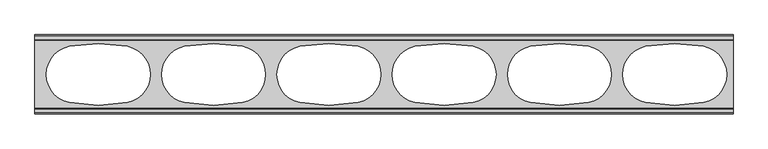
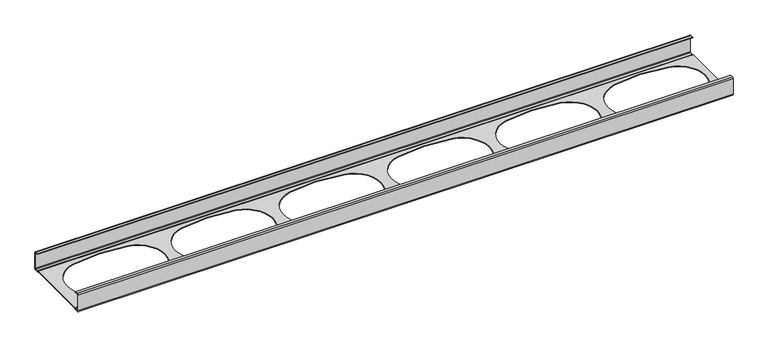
"""IFC4 building model written with IfcOpenShell, lengths in millimetres: proxy geometry, afs-LW-Track-150 : afs-LW-Track-150."""

from ifc_helpers import new_model, si_unit, frame, origin, place, context, project, spatial, polyline, circle_curve, source, transform, mapped, element, save
from ifc_brep_helpers import plane_surface, cylinder_surface, revolved_surface, advanced_brep


def generic_models_b1a0e952(model_context):
    return source(origin(), model_context, "Body", "AdvancedBrep", [
        advanced_brep(
        [(0.0, 69.0, 32.75), (0.0, 69.0, 2.25), (0.0, 66.75, 0.0), (0.0, 61.75, 0.0), (0.0, 60.0632084, 0.760962), (0.0, 59.0795419, 1.2), (0.0, -59.0795419, 1.2), (0.0, -60.0632084, 0.760962), (0.0, -61.75, 0.0), (0.0, -66.75, 0.0), (0.0, -69.0, 2.25), (0.0, -69.0, 32.75), (0.0, -66.75, 35.0), (0.0, -60.75, 35.0), (0.0, -60.75, 34.0), (0.0, -66.75, 34.0), (0.0, -68.0, 32.75), (0.0, -68.0, 2.25), (0.0, -66.75, 1.0), (0.0, -61.75, 1.0), (0.0, -60.819723, 1.4150841), (0.0, -59.0795419, 2.2), (0.0, 59.0795419, 2.2), (0.0, 60.819723, 1.4150841), (0.0, 61.75, 1.0), (0.0, 66.75, 1.0), (0.0, 68.0, 2.25), (0.0, 68.0, 32.75), (0.0, 66.75, 34.0), (0.0, 60.75, 34.0), (0.0, 60.75, 35.0), (0.0, 66.75, 35.0), (1211.3251938, 69.0, 2.25), (1211.3251938, 69.0, 32.75), (1211.3251938, 66.75, 35.0), (1211.3251938, 60.75, 35.0), (1211.3251938, 60.75, 34.0), (1211.3251938, 66.75, 34.0), (1211.3251938, 68.0, 32.75), (1211.3251938, 68.0, 2.25), (1211.3251938, 66.75, 1.0), (1211.3251938, 61.75, 1.0), (1211.3251938, 60.819723, 1.4150841), (1211.3251938, 59.0795419, 2.2), (1211.3251938, -59.0795419, 2.2), (1211.3251938, -60.819723, 1.4150841), (1211.3251938, -61.75, 1.0), (1211.3251938, -66.75, 1.0), (1211.3251938, -68.0, 2.25), (1211.3251938, -68.0, 32.75), (1211.3251938, -66.75, 34.0), (1211.3251938, -60.75, 34.0), (1211.3251938, -60.75, 35.0), (1211.3251938, -66.75, 35.0), (1211.3251938, -69.0, 32.75), (1211.3251938, -69.0, 2.25), (1211.3251938, -66.75, 0.0), (1211.3251938, -61.75, 0.0), (1211.3251938, -60.0632084, 0.760962), (1211.3251938, -59.0795419, 1.2), (1211.3251938, 59.0795419, 1.2), (1211.3251938, 60.0632084, 0.760962), (1211.3251938, 61.75, 0.0), (1211.3251938, 66.75, 0.0), (1060.0990099, -49.009901, 1.2), (1159.9009901, -49.009901, 1.2), (1159.9009901, 49.009901, 1.2), (1060.0990099, 49.009901, 1.2), (260.0990099, -49.009901, 1.2), (359.9009901, -49.009901, 1.2), (359.9009901, 49.009901, 1.2), (260.0990099, 49.009901, 1.2), (460.0990099, -49.009901, 1.2), (559.9009901, -49.009901, 1.2), (559.9009901, 49.009901, 1.2), (460.0990099, 49.009901, 1.2), (660.0990099, -49.009901, 1.2), (759.9009901, -49.009901, 1.2), (759.9009901, 49.009901, 1.2), (660.0990099, 49.009901, 1.2), (860.0990099, -49.009901, 1.2), (959.9009901, -49.009901, 1.2), (959.9009901, 49.009901, 1.2), (860.0990099, 49.009901, 1.2), (60.0990099, -49.009901, 1.2), (159.9009901, -49.009901, 1.2), (159.9009901, 49.009901, 1.2), (60.0990099, 49.009901, 1.2), (1159.9009901, -49.009901, 2.2), (1060.0990099, -49.009901, 2.2), (1060.0990099, 49.009901, 2.2), (1159.9009901, 49.009901, 2.2), (359.9009901, -49.009901, 2.2), (260.0990099, -49.009901, 2.2), (260.0990099, 49.009901, 2.2), (359.9009901, 49.009901, 2.2), (559.9009901, -49.009901, 2.2), (460.0990099, -49.009901, 2.2), (460.0990099, 49.009901, 2.2), (559.9009901, 49.009901, 2.2), (759.9009901, -49.009901, 2.2), (660.0990099, -49.009901, 2.2), (660.0990099, 49.009901, 2.2), (759.9009901, 49.009901, 2.2), (959.9009901, -49.009901, 2.2), (860.0990099, -49.009901, 2.2), (860.0990099, 49.009901, 2.2), (959.9009901, 49.009901, 2.2), (159.9009901, -49.009901, 2.2), (60.0990099, -49.009901, 2.2), (60.0990099, 49.009901, 2.2), (159.9009901, 49.009901, 2.2)],
        [
            (0, 1),
            (1, 2, circle_curve(frame((0.0, 66.75, 2.25), z_axis=(-1.0, 0.0, 0.0), x_axis=(0.0, 1.0, 0.0)), 2.25)),
            (2, 3),
            (3, 4, circle_curve(frame((0.0, 61.75, 2.25), z_axis=(-1.0, 0.0, 0.0), x_axis=(0.0, 1.0, 0.0)), 2.25)),
            (4, 5, circle_curve(frame((0.0, 59.0795419, -0.1214736), z_axis=(1.0, 0.0, 0.0), x_axis=(0.0, 1.0, 0.0)), 1.3214736)),
            (5, 6),
            (6, 7, circle_curve(frame((0.0, -59.0795419, -0.1214736), z_axis=(1.0, 0.0, 0.0), x_axis=(0.0, 1.0, 0.0)), 1.3214736)),
            (7, 8, circle_curve(frame((0.0, -61.75, 2.25), z_axis=(-1.0, 0.0, 0.0), x_axis=(0.0, 1.0, 0.0)), 2.25)),
            (8, 9),
            (9, 10, circle_curve(frame((0.0, -66.75, 2.25), z_axis=(-1.0, 0.0, 0.0), x_axis=(0.0, 1.0, 0.0)), 2.25)),
            (10, 11),
            (11, 12, circle_curve(frame((0.0, -66.75, 32.75), z_axis=(-1.0, 0.0, 0.0), x_axis=(0.0, 1.0, 0.0)), 2.25)),
            (12, 13),
            (13, 14),
            (14, 15),
            (15, 16, circle_curve(frame((0.0, -66.75, 32.75), z_axis=(1.0, 0.0, 0.0), x_axis=(0.0, 1.0, 0.0)), 1.25)),
            (16, 17),
            (17, 18, circle_curve(frame((0.0, -66.75, 2.25), z_axis=(1.0, 0.0, 0.0), x_axis=(0.0, 1.0, 0.0)), 1.25)),
            (18, 19),
            (19, 20, circle_curve(frame((0.0, -61.75, 2.25), z_axis=(1.0, 0.0, 0.0), x_axis=(0.0, 1.0, 0.0)), 1.25)),
            (20, 21, circle_curve(frame((0.0, -59.0795419, -0.1214736), z_axis=(-1.0, 0.0, 0.0), x_axis=(0.0, 1.0, 0.0)), 2.3214736)),
            (21, 22),
            (22, 23, circle_curve(frame((0.0, 59.0795419, -0.1214736), z_axis=(-1.0, 0.0, 0.0), x_axis=(0.0, 1.0, 0.0)), 2.3214736)),
            (23, 24, circle_curve(frame((0.0, 61.75, 2.25), z_axis=(1.0, 0.0, 0.0), x_axis=(0.0, 1.0, 0.0)), 1.25)),
            (24, 25),
            (25, 26, circle_curve(frame((0.0, 66.75, 2.25), z_axis=(1.0, 0.0, 0.0), x_axis=(0.0, 1.0, 0.0)), 1.25)),
            (26, 27),
            (27, 28, circle_curve(frame((0.0, 66.75, 32.75), z_axis=(1.0, 0.0, 0.0), x_axis=(0.0, 1.0, 0.0)), 1.25)),
            (28, 29),
            (29, 30),
            (30, 31),
            (31, 0, circle_curve(frame((0.0, 66.75, 32.75), z_axis=(-1.0, 0.0, 0.0), x_axis=(0.0, 1.0, 0.0)), 2.25)),
            (32, 33),
            (33, 34, circle_curve(frame((1211.3251938, 66.75, 32.75), z_axis=(1.0, 0.0, 0.0), x_axis=(0.0, 1.0, 0.0)), 2.25)),
            (34, 35),
            (35, 36),
            (36, 37),
            (37, 38, circle_curve(frame((1211.3251938, 66.75, 32.75), z_axis=(-1.0, 0.0, 0.0), x_axis=(0.0, 1.0, 0.0)), 1.25)),
            (38, 39),
            (39, 40, circle_curve(frame((1211.3251938, 66.75, 2.25), z_axis=(-1.0, 0.0, 0.0), x_axis=(0.0, 1.0, 0.0)), 1.25)),
            (40, 41),
            (41, 42, circle_curve(frame((1211.3251938, 61.75, 2.25), z_axis=(-1.0, 0.0, 0.0), x_axis=(0.0, 1.0, 0.0)), 1.25)),
            (42, 43, circle_curve(frame((1211.3251938, 59.0795419, -0.1214736), z_axis=(1.0, 0.0, 0.0), x_axis=(0.0, 1.0, 0.0)), 2.3214736)),
            (43, 44),
            (44, 45, circle_curve(frame((1211.3251938, -59.0795419, -0.1214736), z_axis=(1.0, 0.0, 0.0), x_axis=(0.0, 1.0, 0.0)), 2.3214736)),
            (45, 46, circle_curve(frame((1211.3251938, -61.75, 2.25), z_axis=(-1.0, 0.0, 0.0), x_axis=(0.0, 1.0, 0.0)), 1.25)),
            (46, 47),
            (47, 48, circle_curve(frame((1211.3251938, -66.75, 2.25), z_axis=(-1.0, 0.0, 0.0), x_axis=(0.0, 1.0, 0.0)), 1.25)),
            (48, 49),
            (49, 50, circle_curve(frame((1211.3251938, -66.75, 32.75), z_axis=(-1.0, 0.0, 0.0), x_axis=(0.0, 1.0, 0.0)), 1.25)),
            (50, 51),
            (51, 52),
            (52, 53),
            (53, 54, circle_curve(frame((1211.3251938, -66.75, 32.75), z_axis=(1.0, 0.0, 0.0), x_axis=(0.0, 1.0, 0.0)), 2.25)),
            (54, 55),
            (55, 56, circle_curve(frame((1211.3251938, -66.75, 2.25), z_axis=(1.0, 0.0, 0.0), x_axis=(0.0, 1.0, 0.0)), 2.25)),
            (56, 57),
            (57, 58, circle_curve(frame((1211.3251938, -61.75, 2.25), z_axis=(1.0, 0.0, 0.0), x_axis=(0.0, 1.0, 0.0)), 2.25)),
            (58, 59, circle_curve(frame((1211.3251938, -59.0795419, -0.1214736), z_axis=(-1.0, 0.0, 0.0), x_axis=(0.0, 1.0, 0.0)), 1.3214736)),
            (59, 60),
            (60, 61, circle_curve(frame((1211.3251938, 59.0795419, -0.1214736), z_axis=(-1.0, 0.0, 0.0), x_axis=(0.0, 1.0, 0.0)), 1.3214736)),
            (61, 62, circle_curve(frame((1211.3251938, 61.75, 2.25), z_axis=(1.0, 0.0, 0.0), x_axis=(0.0, 1.0, 0.0)), 2.25)),
            (62, 63),
            (63, 32, circle_curve(frame((1211.3251938, 66.75, 2.25), z_axis=(1.0, 0.0, 0.0), x_axis=(0.0, 1.0, 0.0)), 2.25)),
            (0, 33),
            (32, 1),
            (63, 2),
            (62, 3),
            (61, 4),
            (60, 5),
            (59, 6),
            (64, 65, circle_curve(frame((1110.0, 198.0, 1.2), z_axis=(0.0, 0.0, 1.0), x_axis=(0.0, -1.0, 0.0)), 252.0)),
            (65, 66, circle_curve(frame((1150.0, 0.0, 1.2), z_axis=(0.0, 0.0, 1.0), x_axis=(0.0, 1.0, 0.0)), 50.0)),
            (66, 67, circle_curve(frame((1110.0, -198.0, 1.2), z_axis=(0.0, 0.0, 1.0), x_axis=(0.0, 1.0, 0.0)), 252.0)),
            (67, 64, circle_curve(frame((1070.0, 0.0, 1.2), z_axis=(0.0, 0.0, 1.0), x_axis=(0.0, 1.0, 0.0)), 50.0)),
            (68, 69, circle_curve(frame((310.0, 198.0, 1.2), z_axis=(0.0, 0.0, 1.0), x_axis=(0.0, -1.0, 0.0)), 252.0)),
            (69, 70, circle_curve(frame((350.0, 0.0, 1.2), z_axis=(0.0, 0.0, 1.0), x_axis=(0.0, 1.0, 0.0)), 50.0)),
            (70, 71, circle_curve(frame((310.0, -198.0, 1.2), z_axis=(0.0, 0.0, 1.0), x_axis=(0.0, 1.0, 0.0)), 252.0)),
            (71, 68, circle_curve(frame((270.0, 0.0, 1.2), z_axis=(0.0, 0.0, 1.0), x_axis=(0.0, 1.0, 0.0)), 50.0)),
            (72, 73, circle_curve(frame((510.0, 198.0, 1.2), z_axis=(0.0, 0.0, 1.0), x_axis=(0.0, -1.0, 0.0)), 252.0)),
            (73, 74, circle_curve(frame((550.0, 0.0, 1.2), z_axis=(0.0, 0.0, 1.0), x_axis=(0.0, 1.0, 0.0)), 50.0)),
            (74, 75, circle_curve(frame((510.0, -198.0, 1.2), z_axis=(0.0, 0.0, 1.0), x_axis=(0.0, 1.0, 0.0)), 252.0)),
            (75, 72, circle_curve(frame((470.0, 0.0, 1.2), z_axis=(0.0, 0.0, 1.0), x_axis=(0.0, 1.0, 0.0)), 50.0)),
            (76, 77, circle_curve(frame((710.0, 198.0, 1.2), z_axis=(0.0, 0.0, 1.0), x_axis=(0.0, -1.0, 0.0)), 252.0)),
            (77, 78, circle_curve(frame((750.0, 0.0, 1.2), z_axis=(0.0, 0.0, 1.0), x_axis=(0.0, 1.0, 0.0)), 50.0)),
            (78, 79, circle_curve(frame((710.0, -198.0, 1.2), z_axis=(0.0, 0.0, 1.0), x_axis=(0.0, 1.0, 0.0)), 252.0)),
            (79, 76, circle_curve(frame((670.0, 0.0, 1.2), z_axis=(0.0, 0.0, 1.0), x_axis=(0.0, 1.0, 0.0)), 50.0)),
            (80, 81, circle_curve(frame((910.0, 198.0, 1.2), z_axis=(0.0, 0.0, 1.0), x_axis=(0.0, -1.0, 0.0)), 252.0)),
            (81, 82, circle_curve(frame((950.0, 0.0, 1.2), z_axis=(0.0, 0.0, 1.0), x_axis=(0.0, 1.0, 0.0)), 50.0)),
            (82, 83, circle_curve(frame((910.0, -198.0, 1.2), z_axis=(0.0, 0.0, 1.0), x_axis=(0.0, 1.0, 0.0)), 252.0)),
            (83, 80, circle_curve(frame((870.0, 0.0, 1.2), z_axis=(0.0, 0.0, 1.0), x_axis=(0.0, 1.0, 0.0)), 50.0)),
            (84, 85, circle_curve(frame((110.0, 198.0, 1.2), z_axis=(0.0, 0.0, 1.0), x_axis=(0.0, -1.0, 0.0)), 252.0)),
            (85, 86, circle_curve(frame((150.0, 0.0, 1.2), z_axis=(0.0, 0.0, 1.0), x_axis=(0.0, 1.0, 0.0)), 50.0)),
            (86, 87, circle_curve(frame((110.0, -198.0, 1.2), z_axis=(0.0, 0.0, 1.0), x_axis=(0.0, 1.0, 0.0)), 252.0)),
            (87, 84, circle_curve(frame((70.0, 0.0, 1.2), z_axis=(0.0, 0.0, 1.0), x_axis=(0.0, 1.0, 0.0)), 50.0)),
            (58, 7),
            (57, 8),
            (56, 9),
            (55, 10),
            (54, 11),
            (53, 12),
            (52, 13),
            (51, 14),
            (50, 15),
            (49, 16),
            (48, 17),
            (47, 18),
            (46, 19),
            (45, 20),
            (44, 21),
            (43, 22),
            (88, 89, circle_curve(frame((1110.0, 198.0, 2.2), z_axis=(0.0, 0.0, -1.0), x_axis=(0.0, -1.0, 0.0)), 252.0)),
            (89, 90, circle_curve(frame((1070.0, 0.0, 2.2), z_axis=(0.0, 0.0, -1.0), x_axis=(0.0, 1.0, 0.0)), 50.0)),
            (90, 91, circle_curve(frame((1110.0, -198.0, 2.2), z_axis=(0.0, 0.0, -1.0), x_axis=(0.0, 1.0, 0.0)), 252.0)),
            (91, 88, circle_curve(frame((1150.0, 0.0, 2.2), z_axis=(0.0, 0.0, -1.0), x_axis=(0.0, 1.0, 0.0)), 50.0)),
            (92, 93, circle_curve(frame((310.0, 198.0, 2.2), z_axis=(0.0, 0.0, -1.0), x_axis=(0.0, -1.0, 0.0)), 252.0)),
            (93, 94, circle_curve(frame((270.0, 0.0, 2.2), z_axis=(0.0, 0.0, -1.0), x_axis=(0.0, 1.0, 0.0)), 50.0)),
            (94, 95, circle_curve(frame((310.0, -198.0, 2.2), z_axis=(0.0, 0.0, -1.0), x_axis=(0.0, 1.0, 0.0)), 252.0)),
            (95, 92, circle_curve(frame((350.0, 0.0, 2.2), z_axis=(0.0, 0.0, -1.0), x_axis=(0.0, 1.0, 0.0)), 50.0)),
            (96, 97, circle_curve(frame((510.0, 198.0, 2.2), z_axis=(0.0, 0.0, -1.0), x_axis=(0.0, -1.0, 0.0)), 252.0)),
            (97, 98, circle_curve(frame((470.0, 0.0, 2.2), z_axis=(0.0, 0.0, -1.0), x_axis=(0.0, 1.0, 0.0)), 50.0)),
            (98, 99, circle_curve(frame((510.0, -198.0, 2.2), z_axis=(0.0, 0.0, -1.0), x_axis=(0.0, 1.0, 0.0)), 252.0)),
            (99, 96, circle_curve(frame((550.0, 0.0, 2.2), z_axis=(0.0, 0.0, -1.0), x_axis=(0.0, 1.0, 0.0)), 50.0)),
            (100, 101, circle_curve(frame((710.0, 198.0, 2.2), z_axis=(0.0, 0.0, -1.0), x_axis=(0.0, -1.0, 0.0)), 252.0)),
            (101, 102, circle_curve(frame((670.0, 0.0, 2.2), z_axis=(0.0, 0.0, -1.0), x_axis=(0.0, 1.0, 0.0)), 50.0)),
            (102, 103, circle_curve(frame((710.0, -198.0, 2.2), z_axis=(0.0, 0.0, -1.0), x_axis=(0.0, 1.0, 0.0)), 252.0)),
            (103, 100, circle_curve(frame((750.0, 0.0, 2.2), z_axis=(0.0, 0.0, -1.0), x_axis=(0.0, 1.0, 0.0)), 50.0)),
            (104, 105, circle_curve(frame((910.0, 198.0, 2.2), z_axis=(0.0, 0.0, -1.0), x_axis=(0.0, -1.0, 0.0)), 252.0)),
            (105, 106, circle_curve(frame((870.0, 0.0, 2.2), z_axis=(0.0, 0.0, -1.0), x_axis=(0.0, 1.0, 0.0)), 50.0)),
            (106, 107, circle_curve(frame((910.0, -198.0, 2.2), z_axis=(0.0, 0.0, -1.0), x_axis=(0.0, 1.0, 0.0)), 252.0)),
            (107, 104, circle_curve(frame((950.0, 0.0, 2.2), z_axis=(0.0, 0.0, -1.0), x_axis=(0.0, 1.0, 0.0)), 50.0)),
            (108, 109, circle_curve(frame((110.0, 198.0, 2.2), z_axis=(0.0, 0.0, -1.0), x_axis=(0.0, -1.0, 0.0)), 252.0)),
            (109, 110, circle_curve(frame((70.0, 0.0, 2.2), z_axis=(0.0, 0.0, -1.0), x_axis=(0.0, 1.0, 0.0)), 50.0)),
            (110, 111, circle_curve(frame((110.0, -198.0, 2.2), z_axis=(0.0, 0.0, -1.0), x_axis=(0.0, 1.0, 0.0)), 252.0)),
            (111, 108, circle_curve(frame((150.0, 0.0, 2.2), z_axis=(0.0, 0.0, -1.0), x_axis=(0.0, 1.0, 0.0)), 50.0)),
            (42, 23),
            (41, 24),
            (40, 25),
            (39, 26),
            (38, 27),
            (37, 28),
            (36, 29),
            (35, 30),
            (34, 31),
            (92, 69),
            (68, 93),
            (95, 70),
            (94, 71),
            (72, 97),
            (96, 73),
            (99, 74),
            (98, 75),
            (76, 101),
            (100, 77),
            (103, 78),
            (102, 79),
            (80, 105),
            (104, 81),
            (107, 82),
            (106, 83),
            (64, 89),
            (88, 65),
            (91, 66),
            (90, 67),
            (84, 109),
            (108, 85),
            (111, 86),
            (110, 87),
        ],
        [
            plane_surface(frame((0.0, 0.0, 0.0), z_axis=(-1.0, 0.0, 0.0), x_axis=(0.0, 0.0, 1.0))),
            plane_surface(frame((1211.3251938, 0.0, 0.0), z_axis=(1.0, 0.0, 0.0), x_axis=(0.0, 0.0, 1.0))),
            plane_surface(frame((0.0, 69.0, 32.75), z_axis=(0.0, 1.0, 0.0), x_axis=(1.0, 0.0, 0.0))),
            cylinder_surface(frame((0.0, 66.75, 2.25), z_axis=(-1.0, 0.0, 0.0), x_axis=(0.0, 1.0, 0.0)), 2.25),
            plane_surface(frame((0.0, 66.75, 0.0), z_axis=(0.0, 0.0, -1.0), x_axis=(1.0, 0.0, 0.0))),
            cylinder_surface(frame((0.0, 61.75, 2.25), z_axis=(-1.0, 0.0, 0.0), x_axis=(0.0, 1.0, 0.0)), 2.25),
            revolved_surface(polyline([(1211.3251938, 60.4010155, -0.1214736), (0.0, 60.4010155, -0.1214736)]), (0.0, 59.0795419, -0.1214736), (1.0, 0.0, 0.0)),
            plane_surface(frame((0.0, 59.0795419, 1.2), z_axis=(0.0, 0.0, -1.0), x_axis=(1.0, 0.0, 0.0))),
            revolved_surface(polyline([(1211.3251938, -57.758068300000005, -0.1214736), (0.0, -57.758068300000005, -0.1214736)]), (0.0, -59.0795419, -0.1214736), (1.0, 0.0, 0.0)),
            cylinder_surface(frame((0.0, -61.75, 2.25), z_axis=(-1.0, 0.0, 0.0), x_axis=(0.0, 1.0, 0.0)), 2.25),
            plane_surface(frame((0.0, -61.75, 0.0), z_axis=(0.0, 0.0, -1.0), x_axis=(1.0, 0.0, 0.0))),
            cylinder_surface(frame((0.0, -66.75, 2.25), z_axis=(-1.0, 0.0, 0.0), x_axis=(0.0, 1.0, 0.0)), 2.25),
            plane_surface(frame((0.0, -69.0, 2.25), z_axis=(0.0, -1.0, 0.0), x_axis=(1.0, 0.0, 0.0))),
            cylinder_surface(frame((0.0, -66.75, 32.75), z_axis=(-1.0, 0.0, 0.0), x_axis=(0.0, 1.0, 0.0)), 2.25),
            plane_surface(frame((0.0, -66.75, 35.0), z_axis=(0.0, 0.0, 1.0), x_axis=(1.0, 0.0, 0.0))),
            plane_surface(frame((0.0, -60.75, 35.0), z_axis=(0.0, 1.0, 0.0), x_axis=(1.0, 0.0, 0.0))),
            plane_surface(frame((0.0, -60.75, 34.0), z_axis=(0.0, 0.0, -1.0), x_axis=(1.0, 0.0, 0.0))),
            revolved_surface(polyline([(1211.3251938, -65.5, 32.75), (0.0, -65.5, 32.75)]), (0.0, -66.75, 32.75), (1.0, 0.0, 0.0)),
            plane_surface(frame((0.0, -68.0, 32.75), z_axis=(0.0, 1.0, 0.0), x_axis=(1.0, 0.0, 0.0))),
            revolved_surface(polyline([(1211.3251938, -65.5, 2.25), (0.0, -65.5, 2.25)]), (0.0, -66.75, 2.25), (1.0, 0.0, 0.0)),
            plane_surface(frame((0.0, -66.75, 1.0), z_axis=(0.0, 0.0, 1.0), x_axis=(1.0, 0.0, 0.0))),
            revolved_surface(polyline([(1211.3251938, -60.5, 2.25), (0.0, -60.5, 2.25)]), (0.0, -61.75, 2.25), (1.0, 0.0, 0.0)),
            cylinder_surface(frame((0.0, -59.0795419, -0.1214736), z_axis=(-1.0, 0.0, 0.0), x_axis=(0.0, 1.0, 0.0)), 2.3214736),
            plane_surface(frame((0.0, -59.0795419, 2.2), z_axis=(0.0, 0.0, 1.0), x_axis=(1.0, 0.0, 0.0))),
            cylinder_surface(frame((0.0, 59.0795419, -0.1214736), z_axis=(-1.0, 0.0, 0.0), x_axis=(0.0, 1.0, 0.0)), 2.3214736),
            revolved_surface(polyline([(1211.3251938, 63.0, 2.25), (0.0, 63.0, 2.25)]), (0.0, 61.75, 2.25), (1.0, 0.0, 0.0)),
            plane_surface(frame((0.0, 61.75, 1.0), z_axis=(0.0, 0.0, 1.0), x_axis=(1.0, 0.0, 0.0))),
            revolved_surface(polyline([(1211.3251938, 68.0, 2.25), (0.0, 68.0, 2.25)]), (0.0, 66.75, 2.25), (1.0, 0.0, 0.0)),
            plane_surface(frame((0.0, 68.0, 2.25), z_axis=(0.0, -1.0, 0.0), x_axis=(1.0, 0.0, 0.0))),
            revolved_surface(polyline([(1211.3251938, 68.0, 32.75), (0.0, 68.0, 32.75)]), (0.0, 66.75, 32.75), (1.0, 0.0, 0.0)),
            plane_surface(frame((0.0, 66.75, 34.0), z_axis=(0.0, 0.0, -1.0), x_axis=(1.0, 0.0, 0.0))),
            plane_surface(frame((0.0, 60.75, 34.0), z_axis=(0.0, -1.0, 0.0), x_axis=(1.0, 0.0, 0.0))),
            plane_surface(frame((0.0, 60.75, 35.0), z_axis=(0.0, 0.0, 1.0), x_axis=(1.0, 0.0, 0.0))),
            cylinder_surface(frame((0.0, 66.75, 32.75), z_axis=(-1.0, 0.0, 0.0), x_axis=(0.0, 1.0, 0.0)), 2.25),
            revolved_surface(polyline([(310.0, -54.0, 2.200000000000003), (310.0, -54.0, 1.2000000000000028)]), (310.0, 198.0, -98.8), (0.0, 0.0, 1.0)),
            revolved_surface(polyline([(350.0, 50.0, 2.200000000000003), (350.0, 50.0, 1.2000000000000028)]), (350.0, 0.0, -98.8), (0.0, 0.0, 1.0)),
            revolved_surface(polyline([(310.0, 54.0, 2.200000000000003), (310.0, 54.0, 1.2000000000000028)]), (310.0, -198.0, -98.8), (0.0, 0.0, 1.0)),
            revolved_surface(polyline([(270.0, 50.0, 2.200000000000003), (270.0, 50.0, 1.2000000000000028)]), (270.0, 0.0, -98.8), (0.0, 0.0, 1.0)),
            revolved_surface(polyline([(510.0, -54.0, 2.200000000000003), (510.0, -54.0, 1.2000000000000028)]), (510.0, 198.0, -98.8), (0.0, 0.0, 1.0)),
            revolved_surface(polyline([(550.0, 50.0, 2.200000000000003), (550.0, 50.0, 1.2000000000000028)]), (550.0, 0.0, -98.8), (0.0, 0.0, 1.0)),
            revolved_surface(polyline([(510.0, 54.0, 2.200000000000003), (510.0, 54.0, 1.2000000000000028)]), (510.0, -198.0, -98.8), (0.0, 0.0, 1.0)),
            revolved_surface(polyline([(470.0, 50.0, 2.200000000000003), (470.0, 50.0, 1.2000000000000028)]), (470.0, 0.0, -98.8), (0.0, 0.0, 1.0)),
            revolved_surface(polyline([(710.0, -54.0, 2.200000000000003), (710.0, -54.0, 1.2000000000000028)]), (710.0, 198.0, -98.8), (0.0, 0.0, 1.0)),
            revolved_surface(polyline([(750.0, 50.0, 2.200000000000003), (750.0, 50.0, 1.2000000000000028)]), (750.0, 0.0, -98.8), (0.0, 0.0, 1.0)),
            revolved_surface(polyline([(710.0, 54.0, 2.200000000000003), (710.0, 54.0, 1.2000000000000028)]), (710.0, -198.0, -98.8), (0.0, 0.0, 1.0)),
            revolved_surface(polyline([(670.0, 50.0, 2.200000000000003), (670.0, 50.0, 1.2000000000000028)]), (670.0, 0.0, -98.8), (0.0, 0.0, 1.0)),
            revolved_surface(polyline([(910.0, -54.0, 2.200000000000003), (910.0, -54.0, 1.2000000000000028)]), (910.0, 198.0, -98.8), (0.0, 0.0, 1.0)),
            revolved_surface(polyline([(950.0, 50.0, 2.200000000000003), (950.0, 50.0, 1.2000000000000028)]), (950.0, 0.0, -98.8), (0.0, 0.0, 1.0)),
            revolved_surface(polyline([(910.0, 54.0, 2.200000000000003), (910.0, 54.0, 1.2000000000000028)]), (910.0, -198.0, -98.8), (0.0, 0.0, 1.0)),
            revolved_surface(polyline([(870.0, 50.0, 2.200000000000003), (870.0, 50.0, 1.2000000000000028)]), (870.0, 0.0, -98.8), (0.0, 0.0, 1.0)),
            revolved_surface(polyline([(1110.0, -54.0, 2.200000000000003), (1110.0, -54.0, 1.2000000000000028)]), (1110.0, 198.0, -98.8), (0.0, 0.0, 1.0)),
            revolved_surface(polyline([(1150.0, 50.0, 2.200000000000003), (1150.0, 50.0, 1.2000000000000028)]), (1150.0, 0.0, -98.8), (0.0, 0.0, 1.0)),
            revolved_surface(polyline([(1110.0, 54.0, 2.200000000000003), (1110.0, 54.0, 1.2000000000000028)]), (1110.0, -198.0, -98.8), (0.0, 0.0, 1.0)),
            revolved_surface(polyline([(1070.0, 50.0, 2.200000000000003), (1070.0, 50.0, 1.2000000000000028)]), (1070.0, 0.0, -98.8), (0.0, 0.0, 1.0)),
            revolved_surface(polyline([(110.0, -54.0, 2.200000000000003), (110.0, -54.0, 1.2000000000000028)]), (110.0, 198.0, -98.8), (0.0, 0.0, 1.0)),
            revolved_surface(polyline([(150.0, 50.0, 2.200000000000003), (150.0, 50.0, 1.2000000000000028)]), (150.0, 0.0, -98.8), (0.0, 0.0, 1.0)),
            revolved_surface(polyline([(110.0, 54.0, 2.200000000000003), (110.0, 54.0, 1.2000000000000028)]), (110.0, -198.0, -98.8), (0.0, 0.0, 1.0)),
            revolved_surface(polyline([(70.0, 50.0, 2.200000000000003), (70.0, 50.0, 1.2000000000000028)]), (70.0, 0.0, -98.8), (0.0, 0.0, 1.0)),
        ],
        [
            (0, [[1, 2, 3, 4, 5, 6, 7, 8, 9, 10, 11, 12, 13, 14, 15, 16, 17, 18, 19, 20, 21, 22, 23, 24, 25, 26, 27, 28, 29, 30, 31, 32]]),
            (1, [[33, 34, 35, 36, 37, 38, 39, 40, 41, 42, 43, 44, 45, 46, 47, 48, 49, 50, 51, 52, 53, 54, 55, 56, 57, 58, 59, 60, 61, 62, 63, 64]]),
            (2, [[-1, 65, -33, 66]]),
            (3, [[-2, -66, -64, 67]]),
            (4, [[-3, -67, -63, 68]]),
            (5, [[-4, -68, -62, 69]]),
            (6, [[-5, -69, -61, 70]]),
            (7, [[-6, -70, -60, 71], [72, 73, 74, 75], [76, 77, 78, 79], [80, 81, 82, 83], [84, 85, 86, 87], [88, 89, 90, 91], [92, 93, 94, 95]]),
            (8, [[-7, -71, -59, 96]]),
            (9, [[-8, -96, -58, 97]]),
            (10, [[-9, -97, -57, 98]]),
            (11, [[-10, -98, -56, 99]]),
            (12, [[-11, -99, -55, 100]]),
            (13, [[-12, -100, -54, 101]]),
            (14, [[-13, -101, -53, 102]]),
            (15, [[-14, -102, -52, 103]]),
            (16, [[-15, -103, -51, 104]]),
            (17, [[-16, -104, -50, 105]]),
            (18, [[-17, -105, -49, 106]]),
            (19, [[-18, -106, -48, 107]]),
            (20, [[-19, -107, -47, 108]]),
            (21, [[-20, -108, -46, 109]]),
            (22, [[-21, -109, -45, 110]]),
            (23, [[-22, -110, -44, 111], [112, 113, 114, 115], [116, 117, 118, 119], [120, 121, 122, 123], [124, 125, 126, 127], [128, 129, 130, 131], [132, 133, 134, 135]]),
            (24, [[-23, -111, -43, 136]]),
            (25, [[-24, -136, -42, 137]]),
            (26, [[-25, -137, -41, 138]]),
            (27, [[-26, -138, -40, 139]]),
            (28, [[-27, -139, -39, 140]]),
            (29, [[-28, -140, -38, 141]]),
            (30, [[-29, -141, -37, 142]]),
            (31, [[-30, -142, -36, 143]]),
            (32, [[-31, -143, -35, 144]]),
            (33, [[-32, -144, -34, -65]]),
            (34, [[145, -76, 146, -116]]),
            (35, [[-145, -119, 147, -77]]),
            (36, [[-147, -118, 148, -78]]),
            (37, [[-146, -79, -148, -117]]),
            (38, [[149, -120, 150, -80]]),
            (39, [[-150, -123, 151, -81]]),
            (40, [[-151, -122, 152, -82]]),
            (41, [[-149, -83, -152, -121]]),
            (42, [[153, -124, 154, -84]]),
            (43, [[-154, -127, 155, -85]]),
            (44, [[-155, -126, 156, -86]]),
            (45, [[-153, -87, -156, -125]]),
            (46, [[157, -128, 158, -88]]),
            (47, [[-158, -131, 159, -89]]),
            (48, [[-159, -130, 160, -90]]),
            (49, [[-157, -91, -160, -129]]),
            (50, [[161, -112, 162, -72]]),
            (51, [[-162, -115, 163, -73]]),
            (52, [[-163, -114, 164, -74]]),
            (53, [[-161, -75, -164, -113]]),
            (54, [[165, -132, 166, -92]]),
            (55, [[-166, -135, 167, -93]]),
            (56, [[-167, -134, 168, -94]]),
            (57, [[-165, -95, -168, -133]]),
        ],
    ),
    ])


if __name__ == "__main__":
    model = new_model("IFC4")
    model_context = context("Model", 3, world=origin())
    ifc_project = project(units=[si_unit("LENGTHUNIT", "METRE", prefix="MILLI")], contexts=[model_context])
    site = spatial("IfcSite", under=ifc_project)
    building = spatial("IfcBuilding", under=site)
    placement = place(None, origin())
    generic_models_shape = generic_models_b1a0e952(model_context)
    element("IfcBuildingElementProxy", 1, Name="afs-LW-Track-150 : afs-LW-Track-150", ObjectType="afs-LW-Track-150 : afs-LW-Track-150", at=placement, inside=building, context=model_context, shape_type="MappedRepresentation", body=[
        mapped(generic_models_shape, transform((0.0, 0.0, 0.0), x_axis=(1.0, 0.0, 0.0), y_axis=(0.0, 1.0, 0.0), z_axis=(0.0, 0.0, 1.0))),
    ])
    save(model, "model.ifc")
